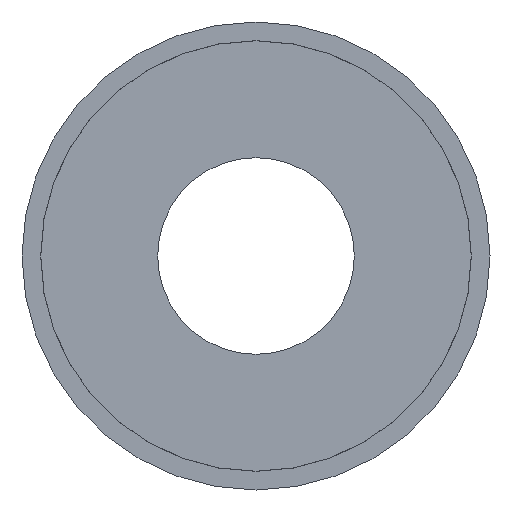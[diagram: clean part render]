
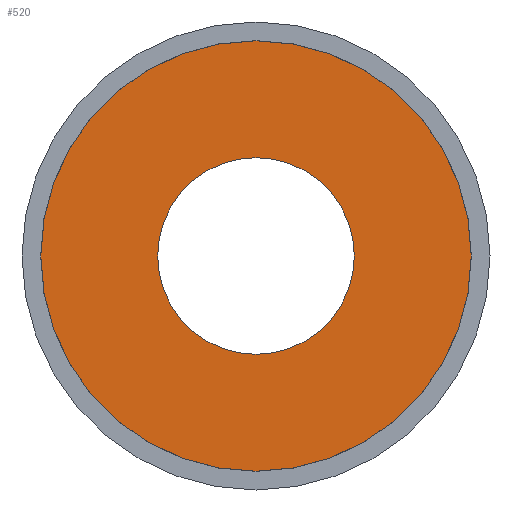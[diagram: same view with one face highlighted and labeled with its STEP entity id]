
A CAD part, front view. The second image highlights one B-rep face of the part: STEP entity #520.
In plain terms, the highlighted planar face has unit normal (0, -1, 0).
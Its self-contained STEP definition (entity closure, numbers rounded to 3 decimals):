
#22 = AXIS2_PLACEMENT_3D ( 'NONE', #925, #56, #189 ) ;
#56 = DIRECTION ( 'NONE',  ( 0., -1., 0. ) ) ;
#70 = ORIENTED_EDGE ( 'NONE', *, *, #644, .T. ) ;
#86 = EDGE_CURVE ( 'NONE', #876, #766, #187, .T. ) ;
#134 = VERTEX_POINT ( 'NONE', #338 ) ;
#162 = CIRCLE ( 'NONE', #689, 22.99 ) ;
#187 = CIRCLE ( 'NONE', #880, 10.5 ) ;
#189 = DIRECTION ( 'NONE',  ( 0., 0., -1. ) ) ;
#210 = DIRECTION ( 'NONE',  ( 0., -1., 0. ) ) ;
#224 = CARTESIAN_POINT ( 'NONE',  ( 0., -7.5, 0. ) ) ;
#232 = DIRECTION ( 'NONE',  ( 0., 1., 0. ) ) ;
#243 = CARTESIAN_POINT ( 'NONE',  ( 0., -7.5, 10.5 ) ) ;
#247 = DIRECTION ( 'NONE',  ( 0., 0., 1. ) ) ;
#264 = DIRECTION ( 'NONE',  ( 0., 1., 0. ) ) ;
#301 = ORIENTED_EDGE ( 'NONE', *, *, #829, .T. ) ;
#338 = CARTESIAN_POINT ( 'NONE',  ( 0., -7.5, 22.99 ) ) ;
#406 = PLANE ( 'NONE',  #22 ) ;
#410 = DIRECTION ( 'NONE',  ( 0., 0., 1. ) ) ;
#441 = DIRECTION ( 'NONE',  ( 0., -1., 0. ) ) ;
#446 = ORIENTED_EDGE ( 'NONE', *, *, #86, .T. ) ;
#457 = CIRCLE ( 'NONE', #774, 10.5 ) ;
#515 = CARTESIAN_POINT ( 'NONE',  ( 0., -7.5, 0. ) ) ;
#520 = ADVANCED_FACE ( 'NONE', ( #782, #540 ), #406, .T. ) ;
#522 = CIRCLE ( 'NONE', #573, 22.99 ) ;
#540 = FACE_OUTER_BOUND ( 'NONE', #654, .T. ) ;
#573 = AXIS2_PLACEMENT_3D ( 'NONE', #224, #441, #719 ) ;
#622 = EDGE_LOOP ( 'NONE', ( #301, #446 ) ) ;
#625 = CARTESIAN_POINT ( 'NONE',  ( 0., -7.5, 0. ) ) ;
#627 = CARTESIAN_POINT ( 'NONE',  ( 0., -7.5, -10.5 ) ) ;
#644 = EDGE_CURVE ( 'NONE', #919, #134, #522, .T. ) ;
#650 = DIRECTION ( 'NONE',  ( 0., 0., -1. ) ) ;
#654 = EDGE_LOOP ( 'NONE', ( #70, #810 ) ) ;
#671 = EDGE_CURVE ( 'NONE', #134, #919, #162, .T. ) ;
#689 = AXIS2_PLACEMENT_3D ( 'NONE', #957, #210, #650 ) ;
#719 = DIRECTION ( 'NONE',  ( 0., 0., -1. ) ) ;
#766 = VERTEX_POINT ( 'NONE', #243 ) ;
#774 = AXIS2_PLACEMENT_3D ( 'NONE', #515, #232, #247 ) ;
#782 = FACE_BOUND ( 'NONE', #622, .T. ) ;
#810 = ORIENTED_EDGE ( 'NONE', *, *, #671, .T. ) ;
#829 = EDGE_CURVE ( 'NONE', #766, #876, #457, .T. ) ;
#876 = VERTEX_POINT ( 'NONE', #627 ) ;
#880 = AXIS2_PLACEMENT_3D ( 'NONE', #625, #264, #410 ) ;
#918 = CARTESIAN_POINT ( 'NONE',  ( 0., -7.5, -22.99 ) ) ;
#919 = VERTEX_POINT ( 'NONE', #918 ) ;
#925 = CARTESIAN_POINT ( 'NONE',  ( -25., -7.5, 0. ) ) ;
#957 = CARTESIAN_POINT ( 'NONE',  ( 0., -7.5, 0. ) ) ;
